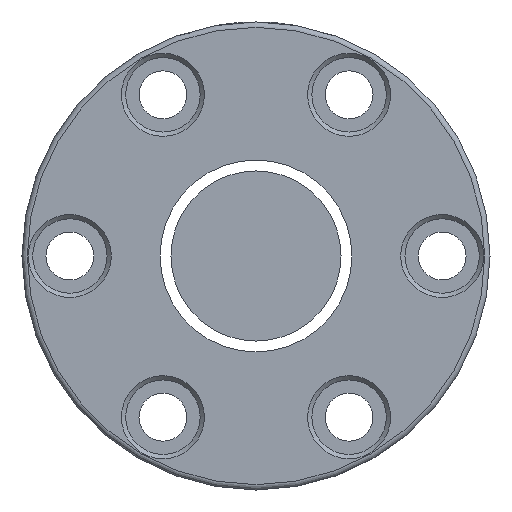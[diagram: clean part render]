
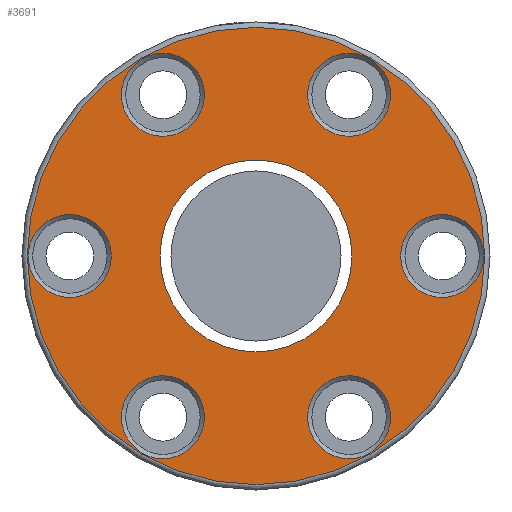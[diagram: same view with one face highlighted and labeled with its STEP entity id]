
A CAD part, left-side view. The second image highlights one B-rep face of the part: STEP entity #3691.
In plain terms, the highlighted planar face has unit normal (-1, 0, 0).
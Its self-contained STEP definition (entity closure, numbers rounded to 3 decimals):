
#138 = FACE_BOUND ( 'NONE', #2828, .T. ) ;
#167 = DIRECTION ( 'NONE',  ( 1., 0., 0. ) ) ;
#202 = EDGE_LOOP ( 'NONE', ( #3648 ) ) ;
#211 = CARTESIAN_POINT ( 'NONE',  ( -85., -25.3, 30.311 ) ) ;
#252 = DIRECTION ( 'NONE',  ( -1., 0., 0. ) ) ;
#272 = DIRECTION ( 'NONE',  ( 0., -1., 0. ) ) ;
#309 = VERTEX_POINT ( 'NONE', #875 ) ;
#319 = EDGE_LOOP ( 'NONE', ( #560 ) ) ;
#372 = DIRECTION ( 'NONE',  ( 1., 0., 0. ) ) ;
#443 = EDGE_LOOP ( 'NONE', ( #2140 ) ) ;
#490 = CARTESIAN_POINT ( 'NONE',  ( -85., 27.2, 0. ) ) ;
#519 = ORIENTED_EDGE ( 'NONE', *, *, #1570, .T. ) ;
#560 = ORIENTED_EDGE ( 'NONE', *, *, #2874, .T. ) ;
#774 = VERTEX_POINT ( 'NONE', #1925 ) ;
#778 = DIRECTION ( 'NONE',  ( 1., 0., 0. ) ) ;
#792 = CARTESIAN_POINT ( 'NONE',  ( -85., 44., 0. ) ) ;
#811 = PLANE ( 'NONE',  #2990 ) ;
#828 = AXIS2_PLACEMENT_3D ( 'NONE', #2773, #1613, #2500 ) ;
#845 = CIRCLE ( 'NONE', #3432, 7.8 ) ;
#875 = CARTESIAN_POINT ( 'NONE',  ( -85., -25.3, -30.311 ) ) ;
#1078 = DIRECTION ( 'NONE',  ( 1., 0., 0. ) ) ;
#1116 = CARTESIAN_POINT ( 'NONE',  ( -85., 0., 0. ) ) ;
#1227 = CIRCLE ( 'NONE', #2679, 7.8 ) ;
#1323 = FACE_BOUND ( 'NONE', #2690, .T. ) ;
#1378 = VERTEX_POINT ( 'NONE', #490 ) ;
#1379 = DIRECTION ( 'NONE',  ( 0., -1., 0. ) ) ;
#1523 = DIRECTION ( 'NONE',  ( 0., -1., 0. ) ) ;
#1553 = FACE_OUTER_BOUND ( 'NONE', #443, .T. ) ;
#1555 = CIRCLE ( 'NONE', #1910, 7.8 ) ;
#1570 = EDGE_CURVE ( 'NONE', #2208, #2208, #1227, .T. ) ;
#1586 = DIRECTION ( 'NONE',  ( 0., 1., 0. ) ) ;
#1613 = DIRECTION ( 'NONE',  ( 1., 0., 0. ) ) ;
#1620 = AXIS2_PLACEMENT_3D ( 'NONE', #2150, #2726, #1586 ) ;
#1641 = CARTESIAN_POINT ( 'NONE',  ( -85., -42.8, 0. ) ) ;
#1803 = EDGE_CURVE ( 'NONE', #2818, #2818, #2583, .T. ) ;
#1910 = AXIS2_PLACEMENT_3D ( 'NONE', #2287, #1078, #272 ) ;
#1925 = CARTESIAN_POINT ( 'NONE',  ( -85., 9.7, 30.311 ) ) ;
#1937 = EDGE_CURVE ( 'NONE', #774, #774, #3482, .T. ) ;
#1959 = EDGE_CURVE ( 'NONE', #1378, #1378, #1555, .T. ) ;
#1966 = CARTESIAN_POINT ( 'NONE',  ( -85., 17.5, 30.311 ) ) ;
#1973 = ORIENTED_EDGE ( 'NONE', *, *, #3259, .T. ) ;
#1985 = DIRECTION ( 'NONE',  ( 0., -1., 0. ) ) ;
#2005 = VERTEX_POINT ( 'NONE', #3504 ) ;
#2023 = DIRECTION ( 'NONE',  ( 1., 0., 0. ) ) ;
#2044 = ORIENTED_EDGE ( 'NONE', *, *, #1959, .T. ) ;
#2073 = VERTEX_POINT ( 'NONE', #3209 ) ;
#2133 = FACE_BOUND ( 'NONE', #2754, .T. ) ;
#2140 = ORIENTED_EDGE ( 'NONE', *, *, #2185, .T. ) ;
#2150 = CARTESIAN_POINT ( 'NONE',  ( -85., 0., 0. ) ) ;
#2165 = CARTESIAN_POINT ( 'NONE',  ( -85., -35., 0. ) ) ;
#2185 = EDGE_CURVE ( 'NONE', #3395, #3395, #2941, .T. ) ;
#2208 = VERTEX_POINT ( 'NONE', #1641 ) ;
#2213 = CARTESIAN_POINT ( 'NONE',  ( -85., -17.5, -30.311 ) ) ;
#2287 = CARTESIAN_POINT ( 'NONE',  ( -85., 35., 0. ) ) ;
#2344 = EDGE_LOOP ( 'NONE', ( #2044 ) ) ;
#2371 = CARTESIAN_POINT ( 'NONE',  ( -85., 17.5, -30.311 ) ) ;
#2461 = CIRCLE ( 'NONE', #1620, 18.05 ) ;
#2500 = DIRECTION ( 'NONE',  ( 0., -1., 0. ) ) ;
#2583 = CIRCLE ( 'NONE', #828, 7.8 ) ;
#2589 = EDGE_CURVE ( 'NONE', #309, #309, #3354, .T. ) ;
#2596 = DIRECTION ( 'NONE',  ( 0., -1., 0. ) ) ;
#2660 = ORIENTED_EDGE ( 'NONE', *, *, #1937, .T. ) ;
#2679 = AXIS2_PLACEMENT_3D ( 'NONE', #2165, #167, #2831 ) ;
#2690 = EDGE_LOOP ( 'NONE', ( #3016 ) ) ;
#2726 = DIRECTION ( 'NONE',  ( 1., 0., 0. ) ) ;
#2754 = EDGE_LOOP ( 'NONE', ( #1973 ) ) ;
#2761 = AXIS2_PLACEMENT_3D ( 'NONE', #2213, #778, #3685 ) ;
#2773 = CARTESIAN_POINT ( 'NONE',  ( -85., -17.5, 30.311 ) ) ;
#2818 = VERTEX_POINT ( 'NONE', #211 ) ;
#2828 = EDGE_LOOP ( 'NONE', ( #519 ) ) ;
#2831 = DIRECTION ( 'NONE',  ( 0., -1., 0. ) ) ;
#2874 = EDGE_CURVE ( 'NONE', #2005, #2005, #2461, .T. ) ;
#2941 = CIRCLE ( 'NONE', #3056, 43. ) ;
#2970 = EDGE_LOOP ( 'NONE', ( #2660 ) ) ;
#2990 = AXIS2_PLACEMENT_3D ( 'NONE', #792, #3078, #1985 ) ;
#3009 = FACE_BOUND ( 'NONE', #202, .T. ) ;
#3016 = ORIENTED_EDGE ( 'NONE', *, *, #1803, .T. ) ;
#3056 = AXIS2_PLACEMENT_3D ( 'NONE', #1116, #252, #2596 ) ;
#3078 = DIRECTION ( 'NONE',  ( -1., 0., 0. ) ) ;
#3118 = AXIS2_PLACEMENT_3D ( 'NONE', #1966, #2023, #1379 ) ;
#3137 = FACE_BOUND ( 'NONE', #319, .T. ) ;
#3209 = CARTESIAN_POINT ( 'NONE',  ( -85., 9.7, -30.311 ) ) ;
#3259 = EDGE_CURVE ( 'NONE', #2073, #2073, #845, .T. ) ;
#3354 = CIRCLE ( 'NONE', #2761, 7.8 ) ;
#3377 = FACE_BOUND ( 'NONE', #2344, .T. ) ;
#3395 = VERTEX_POINT ( 'NONE', #3489 ) ;
#3432 = AXIS2_PLACEMENT_3D ( 'NONE', #2371, #372, #1523 ) ;
#3482 = CIRCLE ( 'NONE', #3118, 7.8 ) ;
#3489 = CARTESIAN_POINT ( 'NONE',  ( -85., -43., 0. ) ) ;
#3504 = CARTESIAN_POINT ( 'NONE',  ( -85., 18.05, 0. ) ) ;
#3622 = FACE_BOUND ( 'NONE', #2970, .T. ) ;
#3648 = ORIENTED_EDGE ( 'NONE', *, *, #2589, .T. ) ;
#3685 = DIRECTION ( 'NONE',  ( 0., -1., 0. ) ) ;
#3691 = ADVANCED_FACE ( 'NONE', ( #1553, #2133, #3009, #138, #1323, #3622, #3377, #3137 ), #811, .T. ) ;
